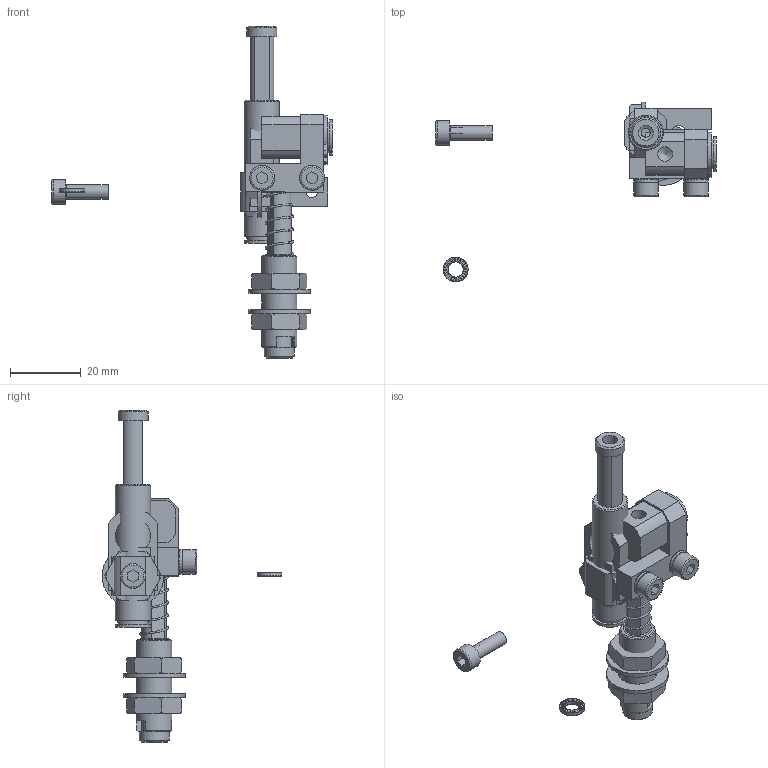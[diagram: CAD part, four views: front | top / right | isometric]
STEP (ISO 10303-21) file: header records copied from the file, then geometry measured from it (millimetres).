
FILE_DESCRIPTION( ( 'STEP AP214' ), '1' );
FILE_NAME( 'C:/Users/Segreteria/Desktop/CA.GGSM100515.stp', '2014-07-02T08:14:32', ( ' ' ), ( ' ' ), 'XStep 1.0', ' ', ' ' );
FILE_SCHEMA( ( 'CONFIG_CONTROL_DESIGN) ( )' ) );
Length unit declared in the file: metre
Products named in the file (17): Assem1; A-Ela  10; V-tcei M  4 x 12; R.4.SCH; M8x26.6N; R.10.SCH; 05.01.005.07; 05.01.005.02; 05.01.005.06; GGS.01.01; GGS.02.01
Bounding box: 79.5 x 50.89 x 94 mm (x, y, z)
Volume: 16726.2 mm3; surface area: 19199 mm2
Topology: 31 solids, 34 shells, 941 faces, 2596 edges, 1724 vertices
Faces by surface type: plane 766, cylinder 87, cone 56, torus 32
Full cylindrical faces by diameter (mm): 1.5 x4, 2.5 x2, 3.242 x4, 4 x4, 4.134 x4, 4.2 x8, 4.3 x3, 5 x2, 7 x9, 8.5 x2, 8.6 x2, 8.917 x3, 10 x6, 11 x4, 17.5 x4
Entity records: 11556 total; most frequent: CARTESIAN_POINT 2057, DIRECTION 1950, ORIENTED_EDGE 1794, EDGE_CURVE 897, AXIS2_PLACEMENT_3D 703, VERTEX_POINT 624, LINE 544, VECTOR 544
